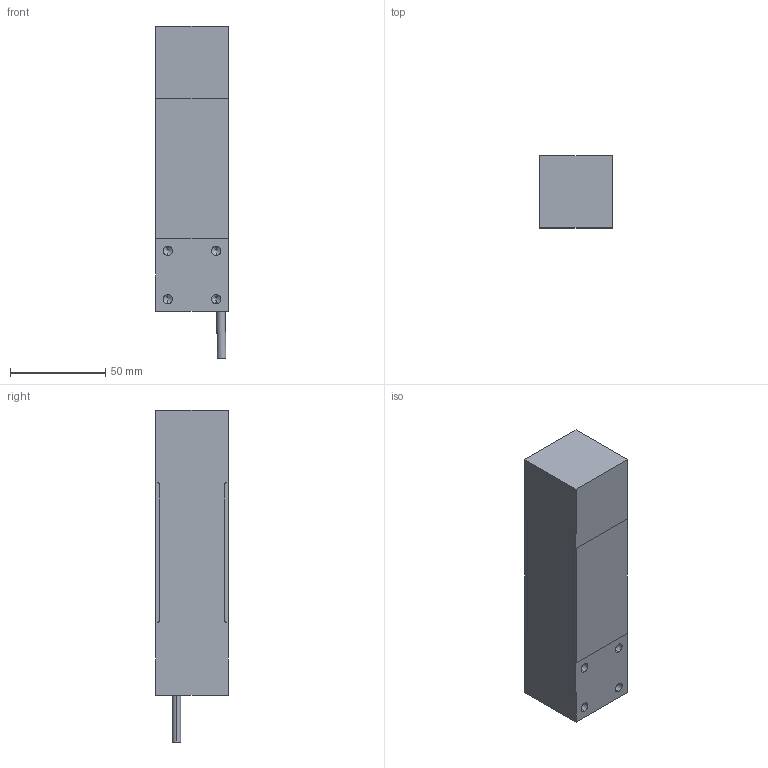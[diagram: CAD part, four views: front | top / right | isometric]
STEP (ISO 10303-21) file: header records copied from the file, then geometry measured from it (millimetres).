
FILE_DESCRIPTION (( 'STEP AP214' ), '1' );
FILE_NAME ('PC46 50kg to 250kg assembly outline.STEP', '2017-08-15T13:54:36', ( '' ), ( '' ), 'SwSTEP 2.0', 'SolidWorks 2017', '' );
FILE_SCHEMA (( 'AUTOMOTIVE_DESIGN' ));
Length unit declared in the file: millimetre
Products named in the file (6): 0045467; 0045464; 0045458; 0010379; Part2^0061699; PC46 50kg to 250kg assembly outline
Assembly tree (6 placements, depth 2):
  PC46 50kg to 250kg assembly outline
    0045458
    0010379
    0045464
    0045467  x2
    Part2^0061699
Bounding box: 38.1 x 38.1 x 174.6 mm (x, y, z)
Volume: 215918.4 mm3; surface area: 42948.7 mm2
Topology: 6 solids, 6 shells, 620 faces, 1579 edges, 1037 vertices
Faces by surface type: plane 245, bspline 214, cylinder 142, cone 19
Entity records: 25499 total; most frequent: CARTESIAN_POINT 11531, ORIENTED_EDGE 3090, DIRECTION 2217, EDGE_CURVE 1545, VERTEX_POINT 1025, VECTOR 827, LINE 827, AXIS2_PLACEMENT_3D 695
